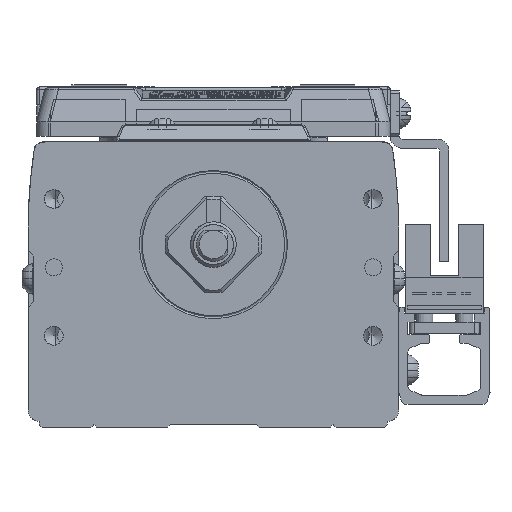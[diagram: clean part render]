
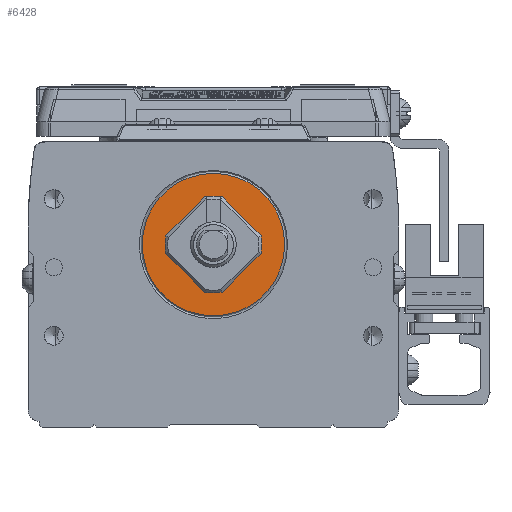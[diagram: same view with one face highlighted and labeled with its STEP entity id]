
A CAD part, left-side view. The second image highlights one B-rep face of the part: STEP entity #6428.
In plain terms, the highlighted planar face has unit normal (-1, 0, 0) as drawn and (0, 0, 1) by its records, which use the part's own axes.
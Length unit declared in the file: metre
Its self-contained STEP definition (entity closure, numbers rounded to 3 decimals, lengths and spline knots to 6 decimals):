
#6428=ADVANCED_FACE('',(#12745,#12746),#12747,.T.);
#12745=FACE_OUTER_BOUND('',#20533,.T.);
#12746=FACE_BOUND('',#20534,.T.);
#12747=PLANE('',#20535);
#20533=EDGE_LOOP('',(#37861));
#20534=EDGE_LOOP('',(#37862));
#20535=AXIS2_PLACEMENT_3D('',#37863,#37864,#37865);
#37861=ORIENTED_EDGE('',*,*,#46183,.T.);
#37862=ORIENTED_EDGE('',*,*,#45947,.F.);
#37863=CARTESIAN_POINT('',(0.000036,-0.0065,0.02));
#37864=DIRECTION('',(0.0,0.0,1.0));
#37865=DIRECTION('',(1.0,0.0,0.0));
#45947=EDGE_CURVE('',#55395,#55395,#55396,.T.);
#46183=EDGE_CURVE('',#55658,#55658,#55659,.T.);
#55395=VERTEX_POINT('',#69226);
#55396=CIRCLE('',#69227,0.004);
#55658=VERTEX_POINT('',#69616);
#55659=CIRCLE('',#69617,0.0125);
#69226=CARTESIAN_POINT('',(0.004,0.0,0.02));
#69227=AXIS2_PLACEMENT_3D('',#76584,#76585,#76586);
#69616=CARTESIAN_POINT('',(-0.0125,0.,0.02));
#69617=AXIS2_PLACEMENT_3D('',#76760,#76761,#76762);
#76584=CARTESIAN_POINT('',(0.0,0.0,0.02));
#76585=DIRECTION('',(0.0,0.0,1.0));
#76586=DIRECTION('',(-1.0,0.0,0.0));
#76760=CARTESIAN_POINT('',(0.0,0.,0.02));
#76761=DIRECTION('',(0.0,0.0,1.0));
#76762=DIRECTION('',(1.0,0.0,0.0));
